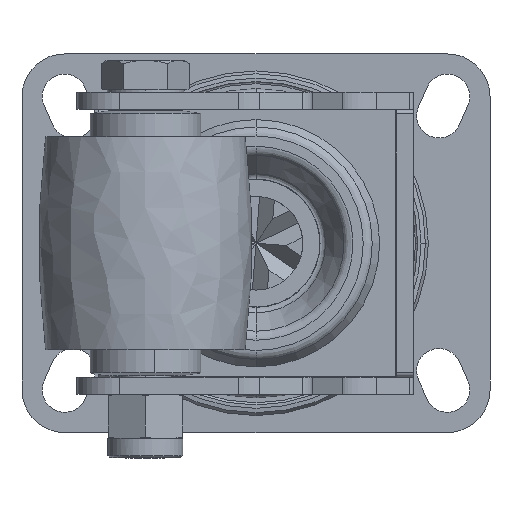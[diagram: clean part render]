
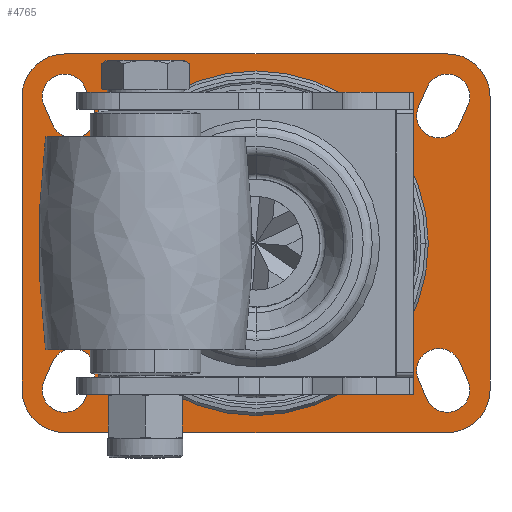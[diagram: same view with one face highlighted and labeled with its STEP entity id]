
A CAD part, front view. The second image highlights one B-rep face of the part: STEP entity #4765.
In plain terms, the highlighted planar face has unit normal (0, -1, 0).
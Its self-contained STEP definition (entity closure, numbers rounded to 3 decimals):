
#3920=CARTESIAN_POINT('',(0.,10.8,0.));
#3921=DIRECTION('',(0.,1.,0.));
#3922=DIRECTION('',(0.,0.,1.));
#3923=AXIS2_PLACEMENT_3D('',#3920,#3921,#3922);
#3925=CARTESIAN_POINT('',(0.,10.8,0.));
#3926=DIRECTION('',(0.,1.,0.));
#3927=DIRECTION('',(0.,0.,-1.));
#3928=AXIS2_PLACEMENT_3D('',#3925,#3926,#3927);
#3930=CARTESIAN_POINT('',(-34.5,10.8,-45.));
#3931=DIRECTION('',(0.,-1.,0.));
#3932=DIRECTION('',(-1.,0.,0.));
#3933=AXIS2_PLACEMENT_3D('',#3930,#3931,#3932);
#3935=CARTESIAN_POINT('',(-34.5,10.8,45.));
#3936=DIRECTION('',(0.,-1.,0.));
#3937=DIRECTION('',(0.,0.,1.));
#3938=AXIS2_PLACEMENT_3D('',#3935,#3936,#3937);
#3940=CARTESIAN_POINT('',(34.5,10.8,45.));
#3941=DIRECTION('',(0.,-1.,0.));
#3942=DIRECTION('',(1.,0.,0.));
#3943=AXIS2_PLACEMENT_3D('',#3940,#3941,#3942);
#3945=CARTESIAN_POINT('',(34.5,10.8,-45.));
#3946=DIRECTION('',(0.,-1.,0.));
#3947=DIRECTION('',(0.,0.,-1.));
#3948=AXIS2_PLACEMENT_3D('',#3945,#3946,#3947);
#3950=DIRECTION('',(-0.914,0.,-0.406));
#3951=VECTOR('',#3950,4.924);
#3952=CARTESIAN_POINT('',(32.368,10.8,49.798));
#3953=LINE('',#3952,#3951);
#3954=CARTESIAN_POINT('',(30.,10.8,43.));
#3955=DIRECTION('',(0.,-1.,0.));
#3956=DIRECTION('',(-0.406,0.,0.914));
#3957=AXIS2_PLACEMENT_3D('',#3954,#3955,#3956);
#3959=DIRECTION('',(0.914,0.,0.406));
#3960=VECTOR('',#3959,4.924);
#3961=CARTESIAN_POINT('',(32.132,10.8,38.202));
#3962=LINE('',#3961,#3960);
#3963=CARTESIAN_POINT('',(34.5,10.8,45.));
#3964=DIRECTION('',(0.,-1.,0.));
#3965=DIRECTION('',(0.406,0.,-0.914));
#3966=AXIS2_PLACEMENT_3D('',#3963,#3964,#3965);
#3968=CARTESIAN_POINT('',(-34.5,10.8,45.));
#3969=DIRECTION('',(0.,-1.,0.));
#3970=DIRECTION('',(0.406,0.,0.914));
#3971=AXIS2_PLACEMENT_3D('',#3968,#3969,#3970);
#3973=DIRECTION('',(0.914,0.,-0.406));
#3974=VECTOR('',#3973,4.924);
#3975=CARTESIAN_POINT('',(-36.632,10.8,40.202));
#3976=LINE('',#3975,#3974);
#3977=CARTESIAN_POINT('',(-30.,10.8,43.));
#3978=DIRECTION('',(0.,-1.,0.));
#3979=DIRECTION('',(-0.406,0.,-0.914));
#3980=AXIS2_PLACEMENT_3D('',#3977,#3978,#3979);
#3982=DIRECTION('',(-0.914,0.,0.406));
#3983=VECTOR('',#3982,4.924);
#3984=CARTESIAN_POINT('',(-27.868,10.8,47.798));
#3985=LINE('',#3984,#3983);
#3986=CARTESIAN_POINT('',(34.5,10.8,-45.));
#3987=DIRECTION('',(0.,-1.,0.));
#3988=DIRECTION('',(-0.406,0.,-0.914));
#3989=AXIS2_PLACEMENT_3D('',#3986,#3987,#3988);
#3991=DIRECTION('',(-0.914,0.,0.406));
#3992=VECTOR('',#3991,4.924);
#3993=CARTESIAN_POINT('',(36.632,10.8,-40.202));
#3994=LINE('',#3993,#3992);
#3995=CARTESIAN_POINT('',(30.,10.8,-43.));
#3996=DIRECTION('',(0.,-1.,0.));
#3997=DIRECTION('',(0.406,0.,0.914));
#3998=AXIS2_PLACEMENT_3D('',#3995,#3996,#3997);
#4000=DIRECTION('',(0.914,0.,-0.406));
#4001=VECTOR('',#4000,4.924);
#4002=CARTESIAN_POINT('',(27.868,10.8,-47.798));
#4003=LINE('',#4002,#4001);
#4004=DIRECTION('',(0.914,0.,0.406));
#4005=VECTOR('',#4004,4.924);
#4006=CARTESIAN_POINT('',(-32.368,10.8,-49.798));
#4007=LINE('',#4006,#4005);
#4008=CARTESIAN_POINT('',(-30.,10.8,-43.));
#4009=DIRECTION('',(0.,-1.,0.));
#4010=DIRECTION('',(0.406,0.,-0.914));
#4011=AXIS2_PLACEMENT_3D('',#4008,#4009,#4010);
#4013=DIRECTION('',(-0.914,0.,-0.406));
#4014=VECTOR('',#4013,4.924);
#4015=CARTESIAN_POINT('',(-32.132,10.8,-38.202));
#4016=LINE('',#4015,#4014);
#4017=CARTESIAN_POINT('',(-34.5,10.8,-45.));
#4018=DIRECTION('',(0.,-1.,0.));
#4019=DIRECTION('',(-0.406,0.,0.914));
#4020=AXIS2_PLACEMENT_3D('',#4017,#4018,#4019);
#4374=DIRECTION('',(0.,0.,-1.));
#4375=VECTOR('',#4374,90.);
#4376=CARTESIAN_POINT('',(-44.5,10.8,45.));
#4377=LINE('',#4376,#4375);
#4382=DIRECTION('',(-1.,0.,0.));
#4383=VECTOR('',#4382,69.);
#4384=CARTESIAN_POINT('',(34.5,10.8,55.));
#4385=LINE('',#4384,#4383);
#4398=DIRECTION('',(0.,0.,1.));
#4399=VECTOR('',#4398,90.);
#4400=CARTESIAN_POINT('',(44.5,10.8,-45.));
#4401=LINE('',#4400,#4399);
#4414=DIRECTION('',(1.,0.,0.));
#4415=VECTOR('',#4414,69.);
#4416=CARTESIAN_POINT('',(-34.5,10.8,-55.));
#4417=LINE('',#4416,#4415);
#4580=CARTESIAN_POINT('',(0.,10.8,-40.5));
#4581=CARTESIAN_POINT('',(0.,10.8,40.5));
#4582=VERTEX_POINT('',#4580);
#4583=VERTEX_POINT('',#4581);
#4604=CARTESIAN_POINT('',(-44.5,10.8,-45.));
#4605=VERTEX_POINT('',#4604);
#4606=CARTESIAN_POINT('',(-34.5,10.8,-55.));
#4607=VERTEX_POINT('',#4606);
#4608=CARTESIAN_POINT('',(34.5,10.8,-55.));
#4609=CARTESIAN_POINT('',(44.5,10.8,-45.));
#4610=VERTEX_POINT('',#4608);
#4611=VERTEX_POINT('',#4609);
#4620=CARTESIAN_POINT('',(44.5,10.8,45.));
#4621=VERTEX_POINT('',#4620);
#4622=CARTESIAN_POINT('',(34.5,10.8,55.));
#4623=VERTEX_POINT('',#4622);
#4624=CARTESIAN_POINT('',(-34.5,10.8,55.));
#4625=CARTESIAN_POINT('',(-44.5,10.8,45.));
#4626=VERTEX_POINT('',#4624);
#4627=VERTEX_POINT('',#4625);
#4632=CARTESIAN_POINT('',(32.368,10.8,49.798));
#4633=CARTESIAN_POINT('',(27.868,10.8,47.798));
#4634=VERTEX_POINT('',#4632);
#4635=VERTEX_POINT('',#4633);
#4636=CARTESIAN_POINT('',(32.132,10.8,38.202));
#4637=VERTEX_POINT('',#4636);
#4638=CARTESIAN_POINT('',(36.632,10.8,40.202));
#4639=VERTEX_POINT('',#4638);
#4640=CARTESIAN_POINT('',(-32.368,10.8,49.798));
#4641=CARTESIAN_POINT('',(-36.632,10.8,40.202));
#4642=VERTEX_POINT('',#4640);
#4643=VERTEX_POINT('',#4641);
#4644=CARTESIAN_POINT('',(-32.132,10.8,38.202));
#4645=VERTEX_POINT('',#4644);
#4646=CARTESIAN_POINT('',(-27.868,10.8,47.798));
#4647=VERTEX_POINT('',#4646);
#4648=CARTESIAN_POINT('',(32.368,10.8,-49.798));
#4649=CARTESIAN_POINT('',(36.632,10.8,-40.202));
#4650=VERTEX_POINT('',#4648);
#4651=VERTEX_POINT('',#4649);
#4652=CARTESIAN_POINT('',(32.132,10.8,-38.202));
#4653=VERTEX_POINT('',#4652);
#4654=CARTESIAN_POINT('',(27.868,10.8,-47.798));
#4655=VERTEX_POINT('',#4654);
#4656=CARTESIAN_POINT('',(-32.368,10.8,-49.798));
#4657=CARTESIAN_POINT('',(-27.868,10.8,-47.798));
#4658=VERTEX_POINT('',#4656);
#4659=VERTEX_POINT('',#4657);
#4660=CARTESIAN_POINT('',(-32.132,10.8,-38.202));
#4661=VERTEX_POINT('',#4660);
#4662=CARTESIAN_POINT('',(-36.632,10.8,-40.202));
#4663=VERTEX_POINT('',#4662);
#4696=CARTESIAN_POINT('',(0.,10.8,48.2));
#4697=DIRECTION('',(0.,-1.,0.));
#4698=DIRECTION('',(0.,0.,-1.));
#4699=AXIS2_PLACEMENT_3D('',#4696,#4697,#4698);
#4700=PLANE('',#4699);
#4702=ORIENTED_EDGE('',*,*,#4701,.F.);
#4704=ORIENTED_EDGE('',*,*,#4703,.F.);
#4706=ORIENTED_EDGE('',*,*,#4705,.F.);
#4708=ORIENTED_EDGE('',*,*,#4707,.F.);
#4710=ORIENTED_EDGE('',*,*,#4709,.F.);
#4712=ORIENTED_EDGE('',*,*,#4711,.F.);
#4714=ORIENTED_EDGE('',*,*,#4713,.F.);
#4716=ORIENTED_EDGE('',*,*,#4715,.F.);
#4717=EDGE_LOOP('',(#4702,#4704,#4706,#4708,#4710,#4712,#4714,#4716));
#4718=FACE_OUTER_BOUND('',#4717,.F.);
#4720=ORIENTED_EDGE('',*,*,#4719,.F.);
#4722=ORIENTED_EDGE('',*,*,#4721,.F.);
#4723=EDGE_LOOP('',(#4720,#4722));
#4724=FACE_BOUND('',#4723,.F.);
#4726=ORIENTED_EDGE('',*,*,#4725,.T.);
#4728=ORIENTED_EDGE('',*,*,#4727,.T.);
#4730=ORIENTED_EDGE('',*,*,#4729,.T.);
#4732=ORIENTED_EDGE('',*,*,#4731,.T.);
#4733=EDGE_LOOP('',(#4726,#4728,#4730,#4732));
#4734=FACE_BOUND('',#4733,.F.);
#4736=ORIENTED_EDGE('',*,*,#4735,.T.);
#4738=ORIENTED_EDGE('',*,*,#4737,.T.);
#4740=ORIENTED_EDGE('',*,*,#4739,.T.);
#4742=ORIENTED_EDGE('',*,*,#4741,.T.);
#4743=EDGE_LOOP('',(#4736,#4738,#4740,#4742));
#4744=FACE_BOUND('',#4743,.F.);
#4746=ORIENTED_EDGE('',*,*,#4745,.T.);
#4748=ORIENTED_EDGE('',*,*,#4747,.T.);
#4750=ORIENTED_EDGE('',*,*,#4749,.T.);
#4752=ORIENTED_EDGE('',*,*,#4751,.T.);
#4753=EDGE_LOOP('',(#4746,#4748,#4750,#4752));
#4754=FACE_BOUND('',#4753,.F.);
#4756=ORIENTED_EDGE('',*,*,#4755,.T.);
#4758=ORIENTED_EDGE('',*,*,#4757,.T.);
#4760=ORIENTED_EDGE('',*,*,#4759,.T.);
#4762=ORIENTED_EDGE('',*,*,#4761,.T.);
#4763=EDGE_LOOP('',(#4756,#4758,#4760,#4762));
#4764=FACE_BOUND('',#4763,.F.);
#3924=CIRCLE('',#3923,40.5);
#3929=CIRCLE('',#3928,40.5);
#3934=CIRCLE('',#3933,10.);
#3939=CIRCLE('',#3938,10.);
#3944=CIRCLE('',#3943,10.);
#3949=CIRCLE('',#3948,10.);
#3958=CIRCLE('',#3957,5.25);
#3967=CIRCLE('',#3966,5.25);
#3972=CIRCLE('',#3971,5.25);
#3981=CIRCLE('',#3980,5.25);
#3990=CIRCLE('',#3989,5.25);
#3999=CIRCLE('',#3998,5.25);
#4012=CIRCLE('',#4011,5.25);
#4021=CIRCLE('',#4020,5.25);
#4701=EDGE_CURVE('',#4605,#4607,#3934,.T.);
#4703=EDGE_CURVE('',#4627,#4605,#4377,.T.);
#4705=EDGE_CURVE('',#4626,#4627,#3939,.T.);
#4707=EDGE_CURVE('',#4623,#4626,#4385,.T.);
#4709=EDGE_CURVE('',#4621,#4623,#3944,.T.);
#4711=EDGE_CURVE('',#4611,#4621,#4401,.T.);
#4713=EDGE_CURVE('',#4610,#4611,#3949,.T.);
#4715=EDGE_CURVE('',#4607,#4610,#4417,.T.);
#4719=EDGE_CURVE('',#4583,#4582,#3924,.T.);
#4721=EDGE_CURVE('',#4582,#4583,#3929,.T.);
#4725=EDGE_CURVE('',#4634,#4635,#3953,.T.);
#4727=EDGE_CURVE('',#4635,#4637,#3958,.T.);
#4729=EDGE_CURVE('',#4637,#4639,#3962,.T.);
#4731=EDGE_CURVE('',#4639,#4634,#3967,.T.);
#4735=EDGE_CURVE('',#4642,#4643,#3972,.T.);
#4737=EDGE_CURVE('',#4643,#4645,#3976,.T.);
#4739=EDGE_CURVE('',#4645,#4647,#3981,.T.);
#4741=EDGE_CURVE('',#4647,#4642,#3985,.T.);
#4745=EDGE_CURVE('',#4650,#4651,#3990,.T.);
#4747=EDGE_CURVE('',#4651,#4653,#3994,.T.);
#4749=EDGE_CURVE('',#4653,#4655,#3999,.T.);
#4751=EDGE_CURVE('',#4655,#4650,#4003,.T.);
#4755=EDGE_CURVE('',#4658,#4659,#4007,.T.);
#4757=EDGE_CURVE('',#4659,#4661,#4012,.T.);
#4759=EDGE_CURVE('',#4661,#4663,#4016,.T.);
#4761=EDGE_CURVE('',#4663,#4658,#4021,.T.);
#4765=ADVANCED_FACE('',(#4718,#4724,#4734,#4744,#4754,#4764),#4700,.T.);
